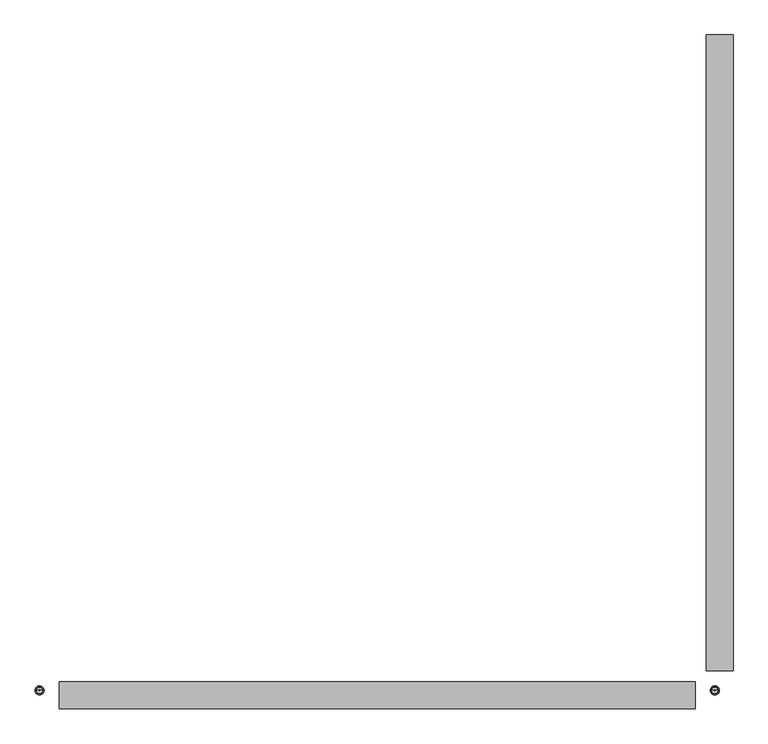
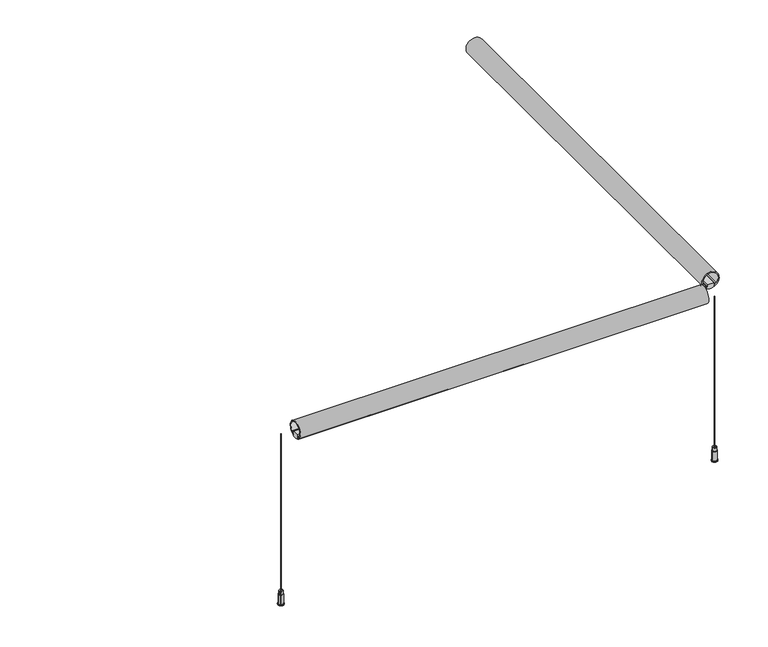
"""IFC4 building model written with IfcOpenShell, lengths in millimetres: light fixture geometry, ARTEMIDE-AoL-StandAlone-SquareRectangular_Suspended : StandALone_Suspended_SquareRectangular-1321x1321mm 9488lm 3000K."""

from ifc_helpers import new_model, si_unit, point, frame, frame_2d, origin, origin_with_axes, place, context, project, spatial, polyline, circle_curve, trimmed, segment, composite_curve, outline, extrude, source, transform, mapped, element, save
from ifc_brep_helpers import plane_surface, cylinder_surface, revolved_surface, advanced_brep


def light_fixture_6c3edb69(model_context):
    return source(origin(), model_context, "Body", "SolidModel", [
        extrude(outline(composite_curve([segment(polyline([(502.9333396, 1284.2532014), (507.259212, 1284.2532014), (507.259212, 1282.3354474), (505.8288843, 1282.3354474), (507.2440748, 1280.3854474), (509.244074, 1280.3854474), (509.244074, 1283.3354474), (510.744074, 1283.3354474), (510.744074, 1278.725222)]), True, "CONTINUOUS"), segment(trimmed(circle_curve(frame_2d((525.0, 1296.0032014)), 22.4), [point((510.744074, 1278.725222))], [point((510.744074, 1313.2811808))], True, "CARTESIAN"), True, "CONTINUOUS"), segment(polyline([(510.744074, 1313.2811808), (510.744074, 1308.6709554), (509.244074, 1308.6709554), (509.244074, 1311.6209554), (507.2440748, 1311.6209554), (505.8288843, 1309.6709554), (507.259212, 1309.6709554), (507.259212, 1307.7532014), (502.9333396, 1307.7532014)]), True, "CONTINUOUS"), segment(trimmed(circle_curve(frame_2d((525.0, 1296.0032014)), 25.0), [point((502.9333396, 1307.7532014))], [point((502.9333396, 1284.2532014))], False, "CARTESIAN"), True, "CONTINUOUS")], self_intersect=False)), frame((0.0, -69.5, 0.0), z_axis=(0.0, 1.0, 0.0), x_axis=(0.0, 0.0, 1.0)), (0.0, 0.0, 1.0), 1180.0),
        extrude(outline(composite_curve([segment(polyline([(502.9333396, 1307.7532014), (507.259212, 1307.7532014), (507.259212, 1311.3072884), (508.785971, 1311.3072884), (508.785971, 1305.5094589), (514.4273482, 1305.5094589), (514.4273482, 1286.4969439), (508.785971, 1286.4969439), (508.785971, 1280.6991144), (507.259212, 1280.6991144), (507.259212, 1284.2532014), (502.9333396, 1284.2532014)]), True, "CONTINUOUS"), segment(trimmed(circle_curve(frame_2d((525.0, 1296.0032014)), 25.0), [point((502.9333396, 1284.2532014))], [point((502.9333396, 1307.7532014))], False, "CARTESIAN"), True, "CONTINUOUS")], self_intersect=False)), frame((0.0, -69.5, 0.0), z_axis=(0.0, 1.0, 0.0), x_axis=(0.0, 0.0, 1.0)), (0.0, 0.0, 1.0), 1180.0),
        advanced_brep(
        [(34.8, -106.0, 41.0209548), (32.8, -106.0, 41.0209548), (28.3097745, -106.0, 41.0209548), (39.2902255, -106.0, 41.0209548), (34.8, -106.0, 0.0), (32.8, -106.0, 0.0), (42.3523699, -106.0, 0.0), (25.2476301, -106.0, 0.0), (42.3523699, -106.0, 2.0209548), (25.2476301, -106.0, 2.0209548), (40.3523699, -106.0, 2.0209548), (27.2476301, -106.0, 2.0209548), (40.3523699, -106.0, 30.9721976), (27.2476301, -106.0, 30.9721976), (39.2902255, -106.0, 30.9721976), (28.3097745, -106.0, 30.9721976)],
        [
            (0, 1, circle_curve(frame((33.8, -106.0, 41.0209548), z_axis=(0.0, 0.0, -1.0), x_axis=(-1.0, 0.0, 0.0)), 1.0)),
            (1, 2),
            (2, 3, circle_curve(frame((33.8, -106.0, 41.0209548), z_axis=(0.0, 0.0, 1.0), x_axis=(-1.0, 0.0, 0.0)), 5.4902255)),
            (3, 0),
            (1, 0, circle_curve(frame((33.8, -106.0, 41.0209548), z_axis=(0.0, 0.0, -1.0), x_axis=(-1.0, 0.0, 0.0)), 1.0)),
            (3, 2, circle_curve(frame((33.8, -106.0, 41.0209548), z_axis=(0.0, 0.0, 1.0), x_axis=(-1.0, 0.0, 0.0)), 5.4902255)),
            (4, 5, circle_curve(frame((33.8, -106.0, 0.0), z_axis=(0.0, 0.0, -1.0), x_axis=(-1.0, 0.0, 0.0)), 1.0)),
            (5, 1),
            (0, 4),
            (5, 4, circle_curve(frame((33.8, -106.0, 0.0), z_axis=(0.0, 0.0, -1.0), x_axis=(-1.0, 0.0, 0.0)), 1.0)),
            (6, 7, circle_curve(frame((33.8, -106.0, 0.0), z_axis=(0.0, 0.0, -1.0), x_axis=(-1.0, 0.0, 0.0)), 8.5523699)),
            (7, 5),
            (4, 6),
            (7, 6, circle_curve(frame((33.8, -106.0, 0.0), z_axis=(0.0, 0.0, -1.0), x_axis=(-1.0, 0.0, 0.0)), 8.5523699)),
            (8, 9, circle_curve(frame((33.8, -106.0, 2.0209548), z_axis=(0.0, 0.0, -1.0), x_axis=(-1.0, 0.0, 0.0)), 8.5523699)),
            (9, 7),
            (6, 8),
            (9, 8, circle_curve(frame((33.8, -106.0, 2.0209548), z_axis=(0.0, 0.0, -1.0), x_axis=(-1.0, 0.0, 0.0)), 8.5523699)),
            (10, 11, circle_curve(frame((33.8, -106.0, 2.0209548), z_axis=(0.0, 0.0, -1.0), x_axis=(-1.0, 0.0, 0.0)), 6.5523699)),
            (11, 9),
            (8, 10),
            (11, 10, circle_curve(frame((33.8, -106.0, 2.0209548), z_axis=(0.0, 0.0, -1.0), x_axis=(-1.0, 0.0, 0.0)), 6.5523699)),
            (12, 13, circle_curve(frame((33.8, -106.0, 30.9721976), z_axis=(0.0, 0.0, -1.0), x_axis=(-1.0, 0.0, 0.0)), 6.5523699)),
            (13, 11),
            (10, 12),
            (13, 12, circle_curve(frame((33.8, -106.0, 30.9721976), z_axis=(0.0, 0.0, -1.0), x_axis=(-1.0, 0.0, 0.0)), 6.5523699)),
            (14, 15, circle_curve(frame((33.8, -106.0, 30.9721976), z_axis=(0.0, 0.0, -1.0), x_axis=(-1.0, 0.0, 0.0)), 5.4902255)),
            (15, 13),
            (12, 14),
            (15, 14, circle_curve(frame((33.8, -106.0, 30.9721976), z_axis=(0.0, 0.0, -1.0), x_axis=(-1.0, 0.0, 0.0)), 5.4902255)),
            (2, 15),
            (14, 3),
        ],
        [
            plane_surface(frame((33.8, -106.0, 41.0209548), z_axis=(0.0, 0.0, 1.0), x_axis=(-1.0, 0.0, 0.0))),
            revolved_surface(polyline([(32.8, -106.0, 41.02095480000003), (32.8, -106.0, 0.0)]), (33.8, -106.0, 391.16642), (0.0, 0.0, 1.0)),
            plane_surface(frame((33.8, -106.0, 0.0), z_axis=(0.0, 0.0, -1.0), x_axis=(-1.0, 0.0, 0.0))),
            cylinder_surface(frame((33.8, -106.0, 391.16642), z_axis=(0.0, 0.0, 1.0), x_axis=(-1.0, 0.0, 0.0)), 8.5523699),
            plane_surface(frame((33.8, -106.0, 2.0209548), z_axis=(0.0, 0.0, 1.0), x_axis=(-1.0, 0.0, 0.0))),
            cylinder_surface(frame((33.8, -106.0, 391.16642), z_axis=(0.0, 0.0, 1.0), x_axis=(-1.0, 0.0, 0.0)), 6.5523699),
            plane_surface(frame((33.8, -106.0, 30.9721976), z_axis=(0.0, 0.0, 1.0), x_axis=(-1.0, 0.0, 0.0))),
            cylinder_surface(frame((33.8, -106.0, 391.16642), z_axis=(0.0, 0.0, 1.0), x_axis=(-1.0, 0.0, 0.0)), 5.4902255),
        ],
        [
            (0, [[1, 2, 3, 4]]),
            (0, [[5, -4, 6, -2]]),
            (1, [[7, 8, -1, 9]]),
            (1, [[10, -9, -5, -8]]),
            (2, [[11, 12, -7, 13]]),
            (2, [[14, -13, -10, -12]]),
            (3, [[15, 16, -11, 17]]),
            (3, [[18, -17, -14, -16]]),
            (4, [[19, 20, -15, 21]]),
            (4, [[22, -21, -18, -20]]),
            (5, [[23, 24, -19, 25]]),
            (5, [[26, -25, -22, -24]]),
            (6, [[27, 28, -23, 29]]),
            (6, [[30, -29, -26, -28]]),
            (7, [[-3, 31, -27, 32]]),
            (7, [[-6, -32, -30, -31]]),
        ],
    ),
        extrude(outline(composite_curve([segment(trimmed(circle_curve(frame_2d((33.8, -106.0)), 0.8), [point((33.0, -106.0))], [point((34.6, -106.0))], False, "CARTESIAN"), True, "CONTINUOUS"), segment(trimmed(circle_curve(frame_2d((33.8, -106.0)), 0.8), [point((34.6, -106.0))], [point((33.0, -106.0))], False, "CARTESIAN"), True, "CONTINUOUS")], self_intersect=False)), origin_with_axes(), (0.0, 0.0, 1.0), 519.5144391),
        advanced_brep(
        [(1288.0, -106.0, 41.0209548), (1286.0, -106.0, 41.0209548), (1281.5097745, -106.0, 41.0209548), (1292.4902255, -106.0, 41.0209548), (1288.0, -106.0, 0.0), (1286.0, -106.0, 0.0), (1295.5523699, -106.0, 0.0), (1278.4476301, -106.0, 0.0), (1295.5523699, -106.0, 2.0209548), (1278.4476301, -106.0, 2.0209548), (1293.5523699, -106.0, 2.0209548), (1280.4476301, -106.0, 2.0209548), (1293.5523699, -106.0, 30.9721976), (1280.4476301, -106.0, 30.9721976), (1292.4902255, -106.0, 30.9721976), (1281.5097745, -106.0, 30.9721976)],
        [
            (0, 1, circle_curve(frame((1287.0, -106.0, 41.0209548), z_axis=(0.0, 0.0, -1.0), x_axis=(-1.0, 0.0, 0.0)), 1.0)),
            (1, 2),
            (2, 3, circle_curve(frame((1287.0, -106.0, 41.0209548), z_axis=(0.0, 0.0, 1.0), x_axis=(-1.0, 0.0, 0.0)), 5.4902255)),
            (3, 0),
            (1, 0, circle_curve(frame((1287.0, -106.0, 41.0209548), z_axis=(0.0, 0.0, -1.0), x_axis=(-1.0, 0.0, 0.0)), 1.0)),
            (3, 2, circle_curve(frame((1287.0, -106.0, 41.0209548), z_axis=(0.0, 0.0, 1.0), x_axis=(-1.0, 0.0, 0.0)), 5.4902255)),
            (4, 5, circle_curve(frame((1287.0, -106.0, 0.0), z_axis=(0.0, 0.0, -1.0), x_axis=(-1.0, 0.0, 0.0)), 1.0)),
            (5, 1),
            (0, 4),
            (5, 4, circle_curve(frame((1287.0, -106.0, 0.0), z_axis=(0.0, 0.0, -1.0), x_axis=(-1.0, 0.0, 0.0)), 1.0)),
            (6, 7, circle_curve(frame((1287.0, -106.0, 0.0), z_axis=(0.0, 0.0, -1.0), x_axis=(-1.0, 0.0, 0.0)), 8.5523699)),
            (7, 5),
            (4, 6),
            (7, 6, circle_curve(frame((1287.0, -106.0, 0.0), z_axis=(0.0, 0.0, -1.0), x_axis=(-1.0, 0.0, 0.0)), 8.5523699)),
            (8, 9, circle_curve(frame((1287.0, -106.0, 2.0209548), z_axis=(0.0, 0.0, -1.0), x_axis=(-1.0, 0.0, 0.0)), 8.5523699)),
            (9, 7),
            (6, 8),
            (9, 8, circle_curve(frame((1287.0, -106.0, 2.0209548), z_axis=(0.0, 0.0, -1.0), x_axis=(-1.0, 0.0, 0.0)), 8.5523699)),
            (10, 11, circle_curve(frame((1287.0, -106.0, 2.0209548), z_axis=(0.0, 0.0, -1.0), x_axis=(-1.0, 0.0, 0.0)), 6.5523699)),
            (11, 9),
            (8, 10),
            (11, 10, circle_curve(frame((1287.0, -106.0, 2.0209548), z_axis=(0.0, 0.0, -1.0), x_axis=(-1.0, 0.0, 0.0)), 6.5523699)),
            (12, 13, circle_curve(frame((1287.0, -106.0, 30.9721976), z_axis=(0.0, 0.0, -1.0), x_axis=(-1.0, 0.0, 0.0)), 6.5523699)),
            (13, 11),
            (10, 12),
            (13, 12, circle_curve(frame((1287.0, -106.0, 30.9721976), z_axis=(0.0, 0.0, -1.0), x_axis=(-1.0, 0.0, 0.0)), 6.5523699)),
            (14, 15, circle_curve(frame((1287.0, -106.0, 30.9721976), z_axis=(0.0, 0.0, -1.0), x_axis=(-1.0, 0.0, 0.0)), 5.4902255)),
            (15, 13),
            (12, 14),
            (15, 14, circle_curve(frame((1287.0, -106.0, 30.9721976), z_axis=(0.0, 0.0, -1.0), x_axis=(-1.0, 0.0, 0.0)), 5.4902255)),
            (2, 15),
            (14, 3),
        ],
        [
            plane_surface(frame((1287.0, -106.0, 41.0209548), z_axis=(0.0, 0.0, 1.0), x_axis=(-1.0, 0.0, 0.0))),
            revolved_surface(polyline([(1286.0, -106.0, 41.02095480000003), (1286.0, -106.0, 0.0)]), (1287.0, -106.0, 391.16642), (0.0, 0.0, 1.0)),
            plane_surface(frame((1287.0, -106.0, 0.0), z_axis=(0.0, 0.0, -1.0), x_axis=(-1.0, 0.0, 0.0))),
            cylinder_surface(frame((1287.0, -106.0, 391.16642), z_axis=(0.0, 0.0, 1.0), x_axis=(-1.0, 0.0, 0.0)), 8.5523699),
            plane_surface(frame((1287.0, -106.0, 2.0209548), z_axis=(0.0, 0.0, 1.0), x_axis=(-1.0, 0.0, 0.0))),
            cylinder_surface(frame((1287.0, -106.0, 391.16642), z_axis=(0.0, 0.0, 1.0), x_axis=(-1.0, 0.0, 0.0)), 6.5523699),
            plane_surface(frame((1287.0, -106.0, 30.9721976), z_axis=(0.0, 0.0, 1.0), x_axis=(-1.0, 0.0, 0.0))),
            cylinder_surface(frame((1287.0, -106.0, 391.16642), z_axis=(0.0, 0.0, 1.0), x_axis=(-1.0, 0.0, 0.0)), 5.4902255),
        ],
        [
            (0, [[1, 2, 3, 4]]),
            (0, [[5, -4, 6, -2]]),
            (1, [[7, 8, -1, 9]]),
            (1, [[10, -9, -5, -8]]),
            (2, [[11, 12, -7, 13]]),
            (2, [[14, -13, -10, -12]]),
            (3, [[15, 16, -11, 17]]),
            (3, [[18, -17, -14, -16]]),
            (4, [[19, 20, -15, 21]]),
            (4, [[22, -21, -18, -20]]),
            (5, [[23, 24, -19, 25]]),
            (5, [[26, -25, -22, -24]]),
            (6, [[27, 28, -23, 29]]),
            (6, [[30, -29, -26, -28]]),
            (7, [[-3, 31, -27, 32]]),
            (7, [[-6, -32, -30, -31]]),
        ],
    ),
        extrude(outline(composite_curve([segment(trimmed(circle_curve(frame_2d((1287.0, -106.0)), 0.8), [point((1286.2, -106.0))], [point((1287.8, -106.0))], False, "CARTESIAN"), True, "CONTINUOUS"), segment(trimmed(circle_curve(frame_2d((1287.0, -106.0)), 0.8), [point((1287.8, -106.0))], [point((1286.2, -106.0))], False, "CARTESIAN"), True, "CONTINUOUS")], self_intersect=False)), origin_with_axes(), (0.0, 0.0, 1.0), 500.0),
        extrude(outline(composite_curve([segment(trimmed(circle_curve(frame_2d((-115.0, 525.0)), 25.0), [point((-126.75, 502.9333396))], [point((-103.25, 502.9333396))], False, "CARTESIAN"), True, "CONTINUOUS"), segment(polyline([(-103.25, 502.9333396), (-103.25, 507.259212), (-101.332246, 507.259212), (-101.332246, 505.8288843), (-99.382246, 507.2440748), (-99.382246, 509.244074), (-102.332246, 509.244074), (-102.332246, 510.744074), (-97.7220206, 510.744074)]), True, "CONTINUOUS"), segment(trimmed(circle_curve(frame_2d((-115.0, 525.0)), 22.4), [point((-97.7220206, 510.744074))], [point((-132.2779794, 510.744074))], True, "CARTESIAN"), True, "CONTINUOUS"), segment(polyline([(-132.2779794, 510.744074), (-127.667754, 510.744074), (-127.667754, 509.244074), (-130.617754, 509.244074), (-130.617754, 507.2440748), (-128.667754, 505.8288843), (-128.667754, 507.259212), (-126.75, 507.259212), (-126.75, 502.9333396)]), True, "CONTINUOUS")], self_intersect=False)), frame((70.5, 0.0, 0.0), z_axis=(1.0, 0.0, 0.0), x_axis=(0.0, 1.0, 0.0)), (0.0, 0.0, 1.0), 1180.0032014),
        extrude(outline(composite_curve([segment(trimmed(circle_curve(frame_2d((-115.0, 525.0)), 25.0), [point((-103.25, 502.9333396))], [point((-126.75, 502.9333396))], False, "CARTESIAN"), True, "CONTINUOUS"), segment(polyline([(-126.75, 502.9333396), (-126.75, 507.259212), (-130.304087, 507.259212), (-130.304087, 508.785971), (-124.5062575, 508.785971), (-124.5062575, 514.4273482), (-105.4937425, 514.4273482), (-105.4937425, 508.785971), (-99.695913, 508.785971), (-99.695913, 507.259212), (-103.25, 507.259212), (-103.25, 502.9333396)]), True, "CONTINUOUS")], self_intersect=False)), frame((70.5, 0.0, 0.0), z_axis=(1.0, 0.0, 0.0), x_axis=(0.0, 1.0, 0.0)), (0.0, 0.0, 1.0), 1180.0032014),
    ])


if __name__ == "__main__":
    model = new_model("IFC4")
    model_context = context("Model", 3, world=origin())
    ifc_project = project(units=[si_unit("LENGTHUNIT", "METRE", prefix="MILLI")], contexts=[model_context])
    site = spatial("IfcSite", under=ifc_project)
    building = spatial("IfcBuilding", under=site)
    placement = place(None, origin())
    light_fixture_shape = light_fixture_6c3edb69(model_context)
    element("IfcLightFixture", 1, ObjectType="ARTEMIDE-AoL-StandAlone-SquareRectangular_Suspended : StandALone_Suspended_SquareRectangular-1321x1321mm 9488lm 3000K", at=placement, inside=building, context=model_context, shape_type="MappedRepresentation", body=[
        mapped(light_fixture_shape, transform((0.0, 0.0, 0.0), x_axis=(1.0, 0.0, 0.0), y_axis=(0.0, 1.0, 0.0), z_axis=(0.0, 0.0, 1.0))),
    ])
    save(model, "model.ifc")
